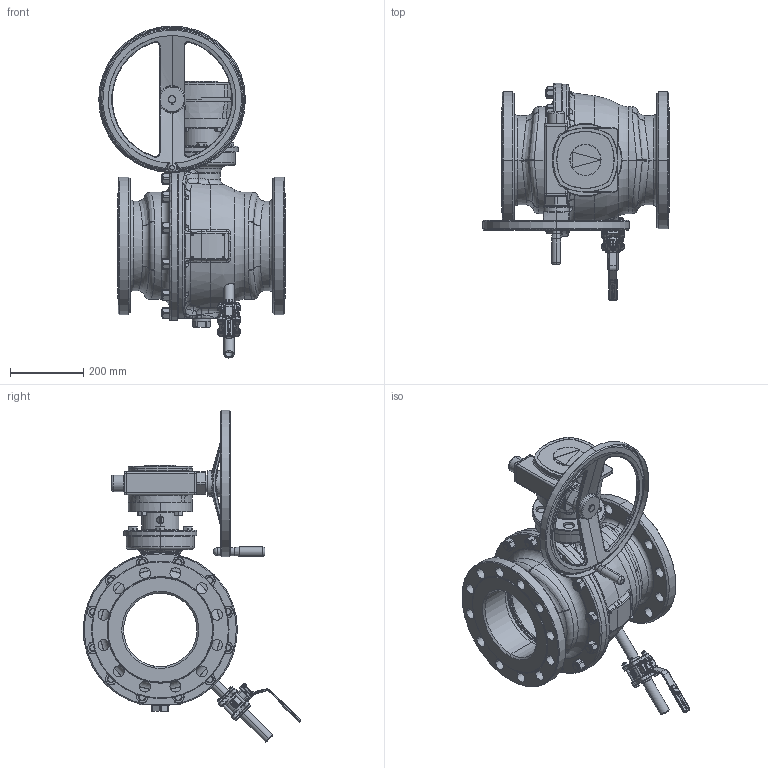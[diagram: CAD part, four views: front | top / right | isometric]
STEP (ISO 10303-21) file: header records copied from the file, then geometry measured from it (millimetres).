
FILE_DESCRIPTION((''),'2;1');
FILE_NAME('250_ASM','2017-01-17T',('schwaba'),('RAND'),'PRO/ENGINEER BY PARAMETRIC TECHNOLOGY CORPORATION, 2016100','PRO/ENGINEER BY PARAMETRIC TECHNOLOGY CORPORATION, 2016100','');
FILE_SCHEMA(('CONFIG_CONTROL_DESIGN'));
Products named in the file (3): KHI_200_PN40_FR_WE_ENTL_O_IT; GS80_F14_AHR400_ZWSTK_DN200; 250_ASM
Assembly tree (2 placements, depth 2):
  250_ASM
    KHI_200_PN40_FR_WE_ENTL_O_IT
    GS80_F14_AHR400_ZWSTK_DN200
Bounding box: 508.5 x 592.83 x 905.16 mm (x, y, z)
Volume: 24186006.1 mm3; surface area: 2862570.3 mm2
Topology: 3 solids, 11 shells, 4491 faces, 11209 edges, 6855 vertices
Faces by surface type: plane 1751, cylinder 986, cone 640, bspline 595, torus 457, sphere 62
Entity records: 246001 total; most frequent: CARTESIAN_POINT 142613, ORIENTED_EDGE 22306, DIRECTION 20818, EDGE_CURVE 11153, AXIS2_PLACEMENT_3D 7839, VERTEX_POINT 6855, VECTOR 5140, LINE 5140
